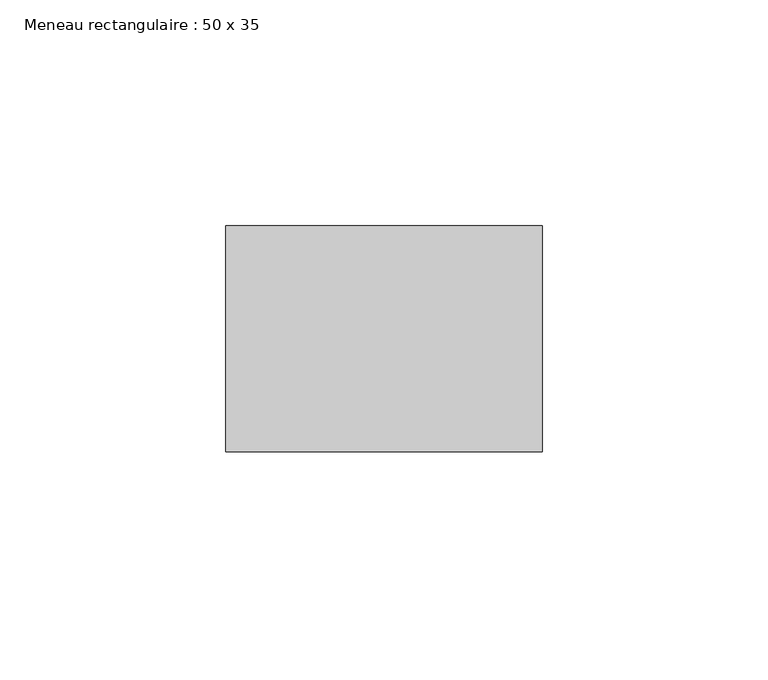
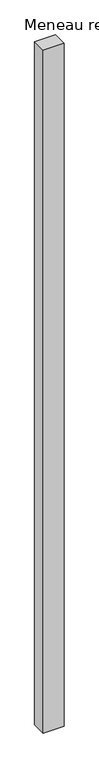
"""IFC4 building model written with IfcOpenShell, lengths in millimetres: member geometry, Meneau rectangulaire : 50 x 35."""

import ifcopenshell
import ifcopenshell.guid

model = None  # the IFC model being written
_history = None  # IfcOwnerHistory: only IFC2X3 demands one
_inside = {}  # id of a spatial element -> (the spatial element, [elements in it])
_under = {}  # id of a project, library or spatial element -> (it, [spatial elements below it])
_declared = {}  # id of a project -> (the project, [libraries it declares])
_typed = {}  # id of a type object -> (the type object, [elements of that type])
_made_of = {}  # id of a material, layer set ... -> (it, [elements and type objects made of it])


def new_model(schema):
    """Start an empty IFC model of exactly this schema.

    Asked for "IFC4X3", IfcOpenShell would pick the latest addendum, in which some entities
    have other attributes; the version numbers below select the first issue.
    IFC2X3 requires an IfcOwnerHistory on every rooted entity: one is made here for all.
    """
    global model, _history
    if schema == "IFC4X3":
        model = ifcopenshell.file(schema_version=(4, 3, 0, 0))
    else:
        model = ifcopenshell.file(schema=schema)
    _inside.clear()
    _under.clear()
    _declared.clear()
    _typed.clear()
    _made_of.clear()
    _history = None
    if model.schema == "IFC2X3":
        org = make("IfcOrganization", Name="unknown")
        user = make(
            "IfcPersonAndOrganization",
            ThePerson=make("IfcPerson", FamilyName="unknown"),
            TheOrganization=org,
        )
        app = make(
            "IfcApplication",
            ApplicationDeveloper=org,
            Version="unknown",
            ApplicationFullName="unknown",
            ApplicationIdentifier="unknown",
        )
        _history = make(
            "IfcOwnerHistory",
            OwningUser=user,
            OwningApplication=app,
            ChangeAction="ADDED",
            CreationDate=0,
        )
    return model


def make(cls, **values):
    """One entity of the class cls with the attributes given. An attribute that is None is left unset."""
    return model.create_entity(
        cls, **{name: value for name, value in values.items() if value is not None}
    )


def rooted(cls, **values):
    """An entity with a GlobalId (a new one), such as an element, a storey or a relation."""
    return make(cls, GlobalId=ifcopenshell.guid.new(), OwnerHistory=_history, **values)


def si_unit(unit_type, name, prefix=None):
    """IfcSIUnit, for example si_unit("LENGTHUNIT", "METRE", prefix="MILLI")."""
    return make("IfcSIUnit", UnitType=unit_type, Prefix=prefix, Name=name)


def assignment(units):
    """IfcUnitAssignment: the units of a project."""
    return None if units is None else make("IfcUnitAssignment", Units=units)


def point(xyz):
    """IfcCartesianPoint."""
    return None if xyz is None else make("IfcCartesianPoint", Coordinates=xyz)


def direction(xyz):
    """IfcDirection."""
    return None if xyz is None else make("IfcDirection", DirectionRatios=xyz)


def frame(location, z_axis=None, x_axis=None):
    """IfcAxis2Placement3D, a coordinate frame: its origin and axes. An axis left out is left unset."""
    return make(
        "IfcAxis2Placement3D",
        Location=point(location),
        Axis=direction(z_axis),
        RefDirection=direction(x_axis),
    )


def origin():
    """The frame at (0, 0, 0) with its axes left unset."""
    return frame((0.0, 0.0, 0.0))


def place(relative_to, where):
    """IfcLocalPlacement: puts the frame where relative to a parent placement (None: the world)."""
    return make(
        "IfcLocalPlacement", PlacementRelTo=relative_to, RelativePlacement=where
    )


def context(
    kind, dimensions, precision=None, world=None, true_north=None, identifier=None
):
    """IfcGeometricRepresentationContext, for example the 3D "Model" context."""
    return make(
        "IfcGeometricRepresentationContext",
        ContextIdentifier=identifier,
        ContextType=kind,
        CoordinateSpaceDimension=dimensions,
        Precision=precision,
        WorldCoordinateSystem=world,
        TrueNorth=true_north,
    )


def project(units=None, contexts=None):
    """IfcProject with its units and contexts."""
    return rooted(
        "IfcProject",
        Name="project",
        RepresentationContexts=contexts,
        UnitsInContext=assignment(units),
    )


def spatial(cls, under=None, at=None, **own):
    """A site, building, storey or space (cls), placed at a placement, below another one or the project."""
    s = rooted(cls, ObjectPlacement=at, **own)
    if under is not None:
        _under.setdefault(under.id(), (under, []))[1].append(s)
    return s


def polyline(points):
    """IfcPolyline through the points."""
    return make("IfcPolyline", Points=[point(p) for p in points])


def outline(outer, holes=None, kind="AREA"):
    """IfcArbitraryClosedProfileDef: a profile drawn as a closed curve; with holes, ...WithVoids."""
    if holes is None:
        return make("IfcArbitraryClosedProfileDef", ProfileType=kind, OuterCurve=outer)
    return make(
        "IfcArbitraryProfileDefWithVoids",
        ProfileType=kind,
        OuterCurve=outer,
        InnerCurves=holes,
    )


def extrude(swept, where, along, depth):
    """IfcExtrudedAreaSolid: the profile swept, set in the frame where, extruded along a direction by depth."""
    return make(
        "IfcExtrudedAreaSolid",
        SweptArea=swept,
        Position=where,
        ExtrudedDirection=direction(along),
        Depth=depth,
    )


def shape(context_of_items, identifier, shape_type, items):
    """IfcShapeRepresentation: the items that make up one representation, for example the "Body"."""
    return make(
        "IfcShapeRepresentation",
        ContextOfItems=context_of_items,
        RepresentationIdentifier=identifier,
        RepresentationType=shape_type,
        Items=items,
    )


def source(mapping_origin, context_of_items, identifier, shape_type, items):
    """IfcRepresentationMap: a shape defined once, which mapped items show again and again."""
    return make(
        "IfcRepresentationMap",
        MappingOrigin=mapping_origin,
        MappedRepresentation=shape(context_of_items, identifier, shape_type, items),
    )


def transform(
    local_origin,
    x_axis=None,
    y_axis=None,
    z_axis=None,
    scale=None,
    scale2=None,
    scale3=None,
    uniform=True,
):
    """IfcCartesianTransformationOperator3D, or its non-uniform kind. x_axis, y_axis, z_axis: its Axis1, 2, 3."""
    if uniform:
        return make(
            "IfcCartesianTransformationOperator3D",
            Axis1=direction(x_axis),
            Axis2=direction(y_axis),
            LocalOrigin=point(local_origin),
            Scale=scale,
            Axis3=direction(z_axis),
        )
    return make(
        "IfcCartesianTransformationOperator3DnonUniform",
        Axis1=direction(x_axis),
        Axis2=direction(y_axis),
        LocalOrigin=point(local_origin),
        Scale=scale,
        Axis3=direction(z_axis),
        Scale2=scale2,
        Scale3=scale3,
    )


def mapped(mapping_source, mapping_target):
    """IfcMappedItem: shows the shape of a source again, moved by a transform."""
    return make(
        "IfcMappedItem", MappingSource=mapping_source, MappingTarget=mapping_target
    )


def made_of(thing, what):
    """Note that an element or type object is made of a material, layer set ...; save() writes the relation."""
    if what is not None:
        _made_of.setdefault(what.id(), (what, []))[1].append(thing)
    return thing


def element(
    cls,
    number,
    at=None,
    inside=None,
    cuts=None,
    type_object=None,
    material=None,
    context=None,
    identifier="Body",
    shape_type=None,
    held_by="IfcProductDefinitionShape",
    body=None,
    shapes=None,
    **own,
):
    """One element of the class cls, such as IfcWall. Its Tag is "e" and its number.

    at: its placement. inside: the storey or other place that contains it. cuts: it is an
    opening in that element (IfcRelVoidsElement). A single representation is given by context,
    identifier, shape_type and body (its items); several are given by shapes. held_by: the class
    of the entity that holds the representations. save() writes the other relations.
    """
    e = rooted(cls, Tag="e%d" % number, ObjectPlacement=at, **own)
    if body is not None:
        shapes = [shape(context, identifier, shape_type, body)]
    if shapes is not None:
        e.Representation = make(held_by, Representations=shapes)
    if inside is not None:
        _inside.setdefault(inside.id(), (inside, []))[1].append(e)
    if cuts is not None:
        rooted(
            "IfcRelVoidsElement", RelatingBuildingElement=cuts, RelatedOpeningElement=e
        )
    if type_object is not None:
        _typed.setdefault(type_object.id(), (type_object, []))[1].append(e)
    return made_of(e, material)


def aggregate(whole, parts):
    """IfcRelAggregates: a whole, such as a stair, and the parts it consists of."""
    return rooted("IfcRelAggregates", RelatingObject=whole, RelatedObjects=parts)


def save(model, path):
    """Write the relations noted so far, then the file.

    IfcRelAggregates (storeys below a building ...), IfcRelContainedInSpatialStructure (elements
    in a storey), IfcRelDefinesByType, IfcRelAssociatesMaterial and IfcRelDeclares: one each for
    every whole, place, type object, material and project.
    """
    for whole, parts in _under.values():
        aggregate(whole, parts)
    for where, things in _inside.values():
        rooted(
            "IfcRelContainedInSpatialStructure",
            RelatedElements=things,
            RelatingStructure=where,
        )
    for kind, things in _typed.values():
        rooted("IfcRelDefinesByType", RelatedObjects=things, RelatingType=kind)
    for what, things in _made_of.values():
        rooted("IfcRelAssociatesMaterial", RelatedObjects=things, RelatingMaterial=what)
    for by, libraries in _declared.values():
        rooted("IfcRelDeclares", RelatingContext=by, RelatedDefinitions=libraries)
    model.write(path)


def meneau_rectangulaire_50_x_35_e8bb8610(model_context):
    return source(origin(), model_context, "Body", "SweptSolid", [
        extrude(outline(polyline([(0.0, 0.0), (0.0, -50.0), (-70.0, -50.0), (-70.0, 0.0), (0.0, 0.0)])), frame((0.0, 0.0, -2431.0), z_axis=(0.0, 0.0, 1.0), x_axis=(1.0, 0.0, 0.0)), (0.0, 0.0, 1.0), 2431.0),
    ])


if __name__ == "__main__":
    model = new_model("IFC4")
    model_context = context("Model", 3, world=origin())
    ifc_project = project(units=[si_unit("LENGTHUNIT", "METRE", prefix="MILLI")], contexts=[model_context])
    site = spatial("IfcSite", under=ifc_project)
    building = spatial("IfcBuilding", under=site)
    placement = place(None, origin())
    meneau_rectangulaire_50_x_35_shape = meneau_rectangulaire_50_x_35_e8bb8610(model_context)
    element("IfcMember", 1, ObjectType="Meneau rectangulaire : 50 x 35", at=placement, inside=building, context=model_context, shape_type="MappedRepresentation", body=[
        mapped(meneau_rectangulaire_50_x_35_shape, transform((0.0, 0.0, 0.0), x_axis=(1.0, 0.0, 0.0), y_axis=(0.0, 1.0, 0.0), z_axis=(0.0, 0.0, 1.0))),
    ])
    save(model, "model.ifc")
